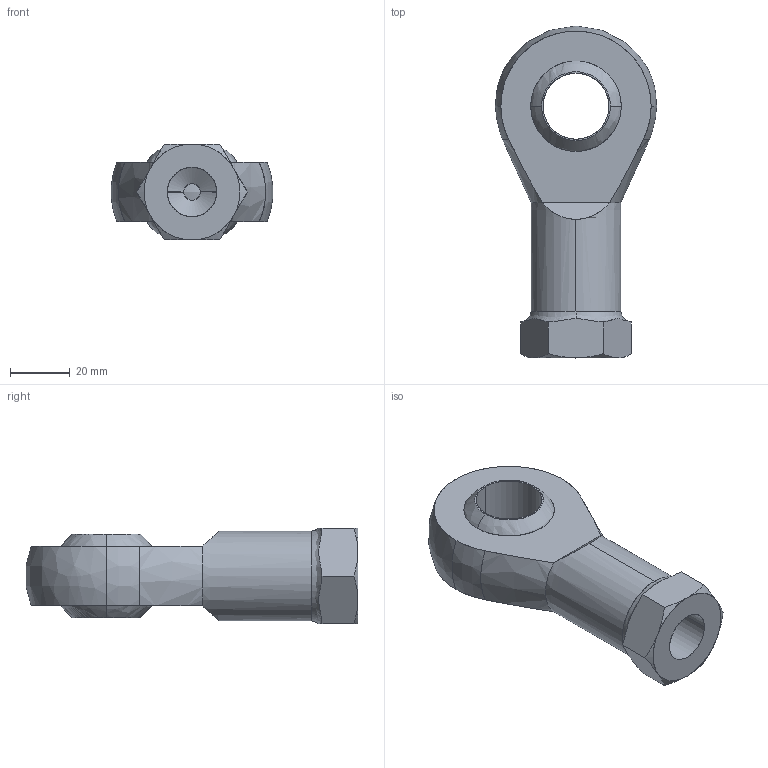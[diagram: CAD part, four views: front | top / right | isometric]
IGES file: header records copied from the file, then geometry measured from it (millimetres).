
Start section: SolidWorks IGES file using analytic representation for surfaces
Global section: file name: C:\Users\Honza\Desktop\Matis\TSF\TSF22.IGS; native system: SolidWorks 2010; preprocessor: SolidWorks 2010; author: Honza; date: 130919.113915; units: millimetre
Bounding box: 53.84 x 110.78 x 32 mm (x, y, z)
Surface area: 22391.5 mm2 (no closed solid volume)
Topology: 0 solids, 0 shells, 40 faces, 998 edges, 994 vertices
Faces by surface type: bspline 22, revolution 18
